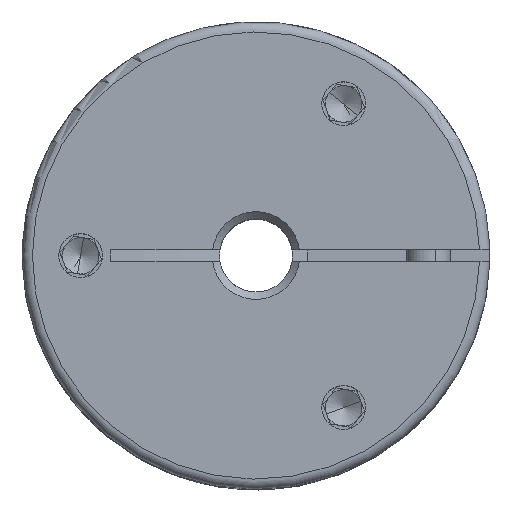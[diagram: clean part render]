
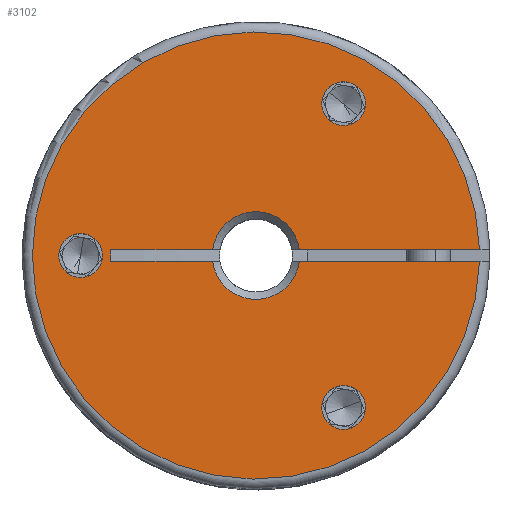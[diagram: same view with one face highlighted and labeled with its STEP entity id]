
A CAD part, top view. The second image highlights one B-rep face of the part: STEP entity #3102.
In plain terms, the highlighted planar face has unit normal (0, 0, 1).
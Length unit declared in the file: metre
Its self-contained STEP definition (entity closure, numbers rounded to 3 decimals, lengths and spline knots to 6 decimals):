
#126 = VERTEX_POINT ( 'NONE', #4993 ) ;
#268 = DIRECTION ( 'NONE',  ( 0., 0., 1. ) ) ;
#340 = DIRECTION ( 'NONE',  ( 1., 0., 0. ) ) ;
#408 = DIRECTION ( 'NONE',  ( 0., 0., 1. ) ) ;
#541 = ORIENTED_EDGE ( 'NONE', *, *, #1414, .T. ) ;
#708 = EDGE_CURVE ( 'NONE', #17417, #13216, #5123, .T. ) ;
#994 = ORIENTED_EDGE ( 'NONE', *, *, #5170, .F. ) ;
#997 = DIRECTION ( 'NONE',  ( 0., 0., 1. ) ) ;
#1289 = CIRCLE ( 'NONE', #13835, 0.003 ) ;
#1414 = EDGE_CURVE ( 'NONE', #1533, #14889, #11869, .T. ) ;
#1483 = CARTESIAN_POINT ( 'NONE',  ( 0.002973, 0.0004, 0.0062 ) ) ;
#1533 = VERTEX_POINT ( 'NONE', #14839 ) ;
#1737 = LINE ( 'NONE', #2134, #5046 ) ;
#1739 = ORIENTED_EDGE ( 'NONE', *, *, #4493, .F. ) ;
#2134 = CARTESIAN_POINT ( 'NONE',  ( 0., 0.0004, 0.0062 ) ) ;
#2241 = DIRECTION ( 'NONE',  ( -1., 0., 0. ) ) ;
#2275 = VECTOR ( 'NONE', #5197, 1. ) ;
#2291 = EDGE_CURVE ( 'NONE', #13909, #6656, #15164, .T. ) ;
#2322 = CARTESIAN_POINT ( 'NONE',  ( -0.002973, -0.0004, 0.0062 ) ) ;
#2336 = CARTESIAN_POINT ( 'NONE',  ( 0., 0., 0.0062 ) ) ;
#2359 = CARTESIAN_POINT ( 'NONE',  ( 0.006, -0.010392, 0.0062 ) ) ;
#2608 = CARTESIAN_POINT ( 'NONE',  ( 0., -0.0004, 0.0062 ) ) ;
#3102 = ADVANCED_FACE ( 'NONE', ( #11808, #11347, #17940, #13924 ), #7531, .T. ) ;
#3283 = CARTESIAN_POINT ( 'NONE',  ( 0.0075, -0.010392, 0.0062 ) ) ;
#3448 = ORIENTED_EDGE ( 'NONE', *, *, #15096, .F. ) ;
#3540 = CARTESIAN_POINT ( 'NONE',  ( -0.009951, -0.0004, 0.0062 ) ) ;
#3560 = CIRCLE ( 'NONE', #14146, 0.0015 ) ;
#3614 = ORIENTED_EDGE ( 'NONE', *, *, #18864, .F. ) ;
#3784 = CARTESIAN_POINT ( 'NONE',  ( 0.0075, 0.010392, 0.0062 ) ) ;
#3843 = CARTESIAN_POINT ( 'NONE',  ( 0., 0.0004, 0.0062 ) ) ;
#4278 = EDGE_LOOP ( 'NONE', ( #14372, #13662 ) ) ;
#4438 = EDGE_CURVE ( 'NONE', #14889, #8609, #1289, .T. ) ;
#4493 = EDGE_CURVE ( 'NONE', #126, #18908, #11852, .T. ) ;
#4658 = DIRECTION ( 'NONE',  ( 0., 0., 1. ) ) ;
#4904 = CARTESIAN_POINT ( 'NONE',  ( 0.015295, 0.0004, 0.0062 ) ) ;
#4945 = CARTESIAN_POINT ( 'NONE',  ( -0.012, 0., 0.0062 ) ) ;
#4993 = CARTESIAN_POINT ( 'NONE',  ( -0.0135, 0., 0.0062 ) ) ;
#5046 = VECTOR ( 'NONE', #6612, 1. ) ;
#5100 = DIRECTION ( 'NONE',  ( -1., 0., 0. ) ) ;
#5123 = CIRCLE ( 'NONE', #18220, 0.0015 ) ;
#5170 = EDGE_CURVE ( 'NONE', #9986, #12950, #1737, .T. ) ;
#5197 = DIRECTION ( 'NONE',  ( 0., -1., 0. ) ) ;
#5318 = DIRECTION ( 'NONE',  ( 1., 0., 0. ) ) ;
#5628 = VERTEX_POINT ( 'NONE', #6617 ) ;
#5672 = CARTESIAN_POINT ( 'NONE',  ( 0.006, 0.010392, 0.0062 ) ) ;
#5706 = CIRCLE ( 'NONE', #12478, 0.0015 ) ;
#6382 = EDGE_LOOP ( 'NONE', ( #18117, #541, #7453, #18426, #3614, #994, #18797, #19012 ) ) ;
#6417 = AXIS2_PLACEMENT_3D ( 'NONE', #4945, #408, #10888 ) ;
#6442 = DIRECTION ( 'NONE',  ( 0., 0., -1. ) ) ;
#6612 = DIRECTION ( 'NONE',  ( -1., 0., 0. ) ) ;
#6617 = CARTESIAN_POINT ( 'NONE',  ( 0.0045, 0.010392, 0.0062 ) ) ;
#6656 = VERTEX_POINT ( 'NONE', #1483 ) ;
#6783 = DIRECTION ( 'NONE',  ( 0., 0., 1. ) ) ;
#6841 = DIRECTION ( 'NONE',  ( 1., 0., 0. ) ) ;
#6943 = AXIS2_PLACEMENT_3D ( 'NONE', #13962, #16884, #7874 ) ;
#7453 = ORIENTED_EDGE ( 'NONE', *, *, #4438, .T. ) ;
#7473 = CARTESIAN_POINT ( 'NONE',  ( 0., 0., 0.0062 ) ) ;
#7531 = PLANE ( 'NONE',  #12294 ) ;
#7670 = EDGE_CURVE ( 'NONE', #11252, #5628, #19253, .T. ) ;
#7874 = DIRECTION ( 'NONE',  ( 1., 0., 0. ) ) ;
#8098 = VECTOR ( 'NONE', #5100, 1. ) ;
#8202 = DIRECTION ( 'NONE',  ( 0., 0., -1. ) ) ;
#8609 = VERTEX_POINT ( 'NONE', #2322 ) ;
#9144 = CARTESIAN_POINT ( 'NONE',  ( 0.006, 0.010392, 0.0062 ) ) ;
#9675 = EDGE_CURVE ( 'NONE', #8609, #17516, #17341, .T. ) ;
#9986 = VERTEX_POINT ( 'NONE', #17884 ) ;
#10187 = ORIENTED_EDGE ( 'NONE', *, *, #708, .F. ) ;
#10451 = DIRECTION ( 'NONE',  ( 0., 0., 1. ) ) ;
#10530 = CIRCLE ( 'NONE', #14542, 0.0153 ) ;
#10770 = CARTESIAN_POINT ( 'NONE',  ( 0.006, -0.010392, 0.0062 ) ) ;
#10888 = DIRECTION ( 'NONE',  ( 1., 0., 0. ) ) ;
#11010 = CARTESIAN_POINT ( 'NONE',  ( -0.009951, 0.0004, 0.0062 ) ) ;
#11210 = CARTESIAN_POINT ( 'NONE',  ( -0.0105, 0., 0.0062 ) ) ;
#11252 = VERTEX_POINT ( 'NONE', #3784 ) ;
#11347 = FACE_BOUND ( 'NONE', #4278, .T. ) ;
#11428 = LINE ( 'NONE', #15634, #2275 ) ;
#11808 = FACE_BOUND ( 'NONE', #12953, .T. ) ;
#11852 = CIRCLE ( 'NONE', #6417, 0.0015 ) ;
#11869 = LINE ( 'NONE', #2608, #18253 ) ;
#12198 = DIRECTION ( 'NONE',  ( 1., 0., 0. ) ) ;
#12257 = DIRECTION ( 'NONE',  ( 0., 0., 1. ) ) ;
#12265 = CARTESIAN_POINT ( 'NONE',  ( 0., 0., 0.0062 ) ) ;
#12294 = AXIS2_PLACEMENT_3D ( 'NONE', #7473, #4658, #17968 ) ;
#12478 = AXIS2_PLACEMENT_3D ( 'NONE', #5672, #997, #15986 ) ;
#12504 = EDGE_CURVE ( 'NONE', #5628, #11252, #5706, .T. ) ;
#12739 = EDGE_CURVE ( 'NONE', #13216, #17417, #3560, .T. ) ;
#12940 = AXIS2_PLACEMENT_3D ( 'NONE', #9144, #268, #15123 ) ;
#12950 = VERTEX_POINT ( 'NONE', #11010 ) ;
#12953 = EDGE_LOOP ( 'NONE', ( #3448, #1739 ) ) ;
#13136 = DIRECTION ( 'NONE',  ( -1., 0., 0. ) ) ;
#13191 = CARTESIAN_POINT ( 'NONE',  ( 0.002973, -0.0004, 0.0062 ) ) ;
#13216 = VERTEX_POINT ( 'NONE', #13640 ) ;
#13640 = CARTESIAN_POINT ( 'NONE',  ( 0.0045, -0.010392, 0.0062 ) ) ;
#13662 = ORIENTED_EDGE ( 'NONE', *, *, #12504, .F. ) ;
#13835 = AXIS2_PLACEMENT_3D ( 'NONE', #12265, #6442, #340 ) ;
#13909 = VERTEX_POINT ( 'NONE', #4904 ) ;
#13924 = FACE_OUTER_BOUND ( 'NONE', #6382, .T. ) ;
#13962 = CARTESIAN_POINT ( 'NONE',  ( -0.012, 0., 0.0062 ) ) ;
#14146 = AXIS2_PLACEMENT_3D ( 'NONE', #10770, #12257, #12198 ) ;
#14293 = VECTOR ( 'NONE', #2241, 1. ) ;
#14372 = ORIENTED_EDGE ( 'NONE', *, *, #7670, .F. ) ;
#14542 = AXIS2_PLACEMENT_3D ( 'NONE', #16209, #10451, #16467 ) ;
#14839 = CARTESIAN_POINT ( 'NONE',  ( 0.015295, -0.0004, 0.0062 ) ) ;
#14889 = VERTEX_POINT ( 'NONE', #13191 ) ;
#15096 = EDGE_CURVE ( 'NONE', #18908, #126, #16200, .T. ) ;
#15123 = DIRECTION ( 'NONE',  ( 1., 0., 0. ) ) ;
#15164 = LINE ( 'NONE', #3843, #8098 ) ;
#15230 = EDGE_CURVE ( 'NONE', #9986, #6656, #18986, .T. ) ;
#15634 = CARTESIAN_POINT ( 'NONE',  ( -0.009951, -0.0004, 0.0062 ) ) ;
#15862 = CARTESIAN_POINT ( 'NONE',  ( 0., -0.0004, 0.0062 ) ) ;
#15986 = DIRECTION ( 'NONE',  ( 1., 0., 0. ) ) ;
#16200 = CIRCLE ( 'NONE', #6943, 0.0015 ) ;
#16209 = CARTESIAN_POINT ( 'NONE',  ( 0., 0., 0.0062 ) ) ;
#16467 = DIRECTION ( 'NONE',  ( 1., 0., 0. ) ) ;
#16515 = ORIENTED_EDGE ( 'NONE', *, *, #12739, .F. ) ;
#16755 = EDGE_LOOP ( 'NONE', ( #10187, #16515 ) ) ;
#16884 = DIRECTION ( 'NONE',  ( 0., 0., 1. ) ) ;
#17341 = LINE ( 'NONE', #15862, #14293 ) ;
#17417 = VERTEX_POINT ( 'NONE', #3283 ) ;
#17516 = VERTEX_POINT ( 'NONE', #3540 ) ;
#17884 = CARTESIAN_POINT ( 'NONE',  ( -0.002973, 0.0004, 0.0062 ) ) ;
#17940 = FACE_BOUND ( 'NONE', #16755, .T. ) ;
#17968 = DIRECTION ( 'NONE',  ( 1., 0., 0. ) ) ;
#18117 = ORIENTED_EDGE ( 'NONE', *, *, #18183, .T. ) ;
#18183 = EDGE_CURVE ( 'NONE', #13909, #1533, #10530, .T. ) ;
#18220 = AXIS2_PLACEMENT_3D ( 'NONE', #2359, #6783, #6841 ) ;
#18253 = VECTOR ( 'NONE', #13136, 1. ) ;
#18288 = AXIS2_PLACEMENT_3D ( 'NONE', #2336, #8202, #5318 ) ;
#18426 = ORIENTED_EDGE ( 'NONE', *, *, #9675, .T. ) ;
#18797 = ORIENTED_EDGE ( 'NONE', *, *, #15230, .T. ) ;
#18864 = EDGE_CURVE ( 'NONE', #12950, #17516, #11428, .T. ) ;
#18908 = VERTEX_POINT ( 'NONE', #11210 ) ;
#18986 = CIRCLE ( 'NONE', #18288, 0.003 ) ;
#19012 = ORIENTED_EDGE ( 'NONE', *, *, #2291, .F. ) ;
#19253 = CIRCLE ( 'NONE', #12940, 0.0015 ) ;
